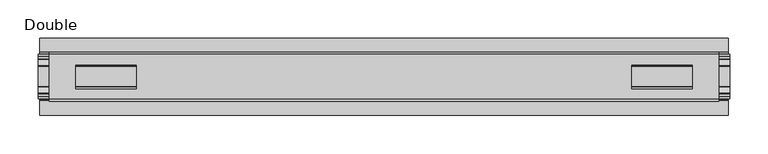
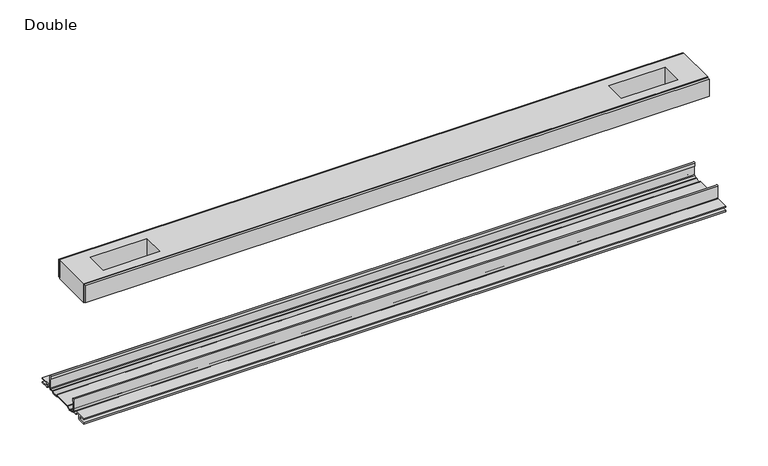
"""IFC4 building model written with IfcOpenShell, lengths in millimetres: proxy geometry, Frame-Teknion-FHCRA-Horizontal_Rail-R2022 : Double."""

from ifc_helpers import new_model, si_unit, point, frame, frame_2d, origin, place, context, project, spatial, polyline, circle_curve, trimmed, segment, composite_curve, outline, extrude, source, transform, mapped, element, save


def double_fa46a99c(model_context):
    return source(origin(), model_context, "Body", "SweptSolid", [
        extrude(outline(polyline([(436.4490205, -29.0068005), (436.4490205, -32.1817997), (-436.4490205, -32.1817997), (-436.4490205, -29.0068005), (436.4490205, -29.0068005)])), frame((0.0, 0.0, 149.8401622), z_axis=(0.0, 0.0, 1.0), x_axis=(1.0, 0.0, 0.0)), (0.0, 0.0, 1.0), 25.3999939),
        extrude(outline(polyline([(436.4490205, 32.1817997), (436.4490205, 29.0068005), (-436.4490205, 29.0068005), (-436.4490205, 32.1817997), (436.4490205, 32.1817997)])), frame((0.0, 0.0, 149.8401622), z_axis=(0.0, 0.0, 1.0), x_axis=(1.0, 0.0, 0.0)), (0.0, 0.0, 1.0), 25.3999939),
        extrude(outline(polyline([(436.4490205, 29.0068005), (436.4490205, -29.0068005), (-436.4490205, -29.0068005), (-436.4490205, 29.0068005), (436.4490205, 29.0068005)]), holes=[polyline([(402.032008, 15.1130038), (322.9871961, 15.1130038), (322.9871961, -15.875003), (402.032008, -15.875003), (402.032008, 15.1130038)]), polyline([(-402.032008, 15.1130038), (-402.032008, -15.875003), (-322.9871961, -15.875003), (-322.9871961, 15.1130038), (-402.032008, 15.1130038)])]), frame((0.0, 0.0, 148.4185847), z_axis=(0.0, 0.0, 1.0), x_axis=(1.0, 0.0, 0.0)), (0.0, 0.0, 1.0), 27.9999988),
        extrude(outline(composite_curve([segment(polyline([(-28.8162961, -7.7516037), (-28.8162961, 9.8607558)]), True, "CONTINUOUS"), segment(trimmed(circle_curve(frame_2d((-27.5970982, 9.8607558)), 1.2191979), [point((-28.8162961, 9.8607558))], [point((-26.3779003, 9.8607558))], False, "CARTESIAN"), True, "CONTINUOUS"), segment(polyline([(-26.3779003, 9.8607558), (-26.3779003, 5.9999563), (-27.6580769, 5.9999563), (-27.6580769, -7.7516037)]), True, "CONTINUOUS"), segment(trimmed(circle_curve(frame_2d((-26.6420561, -7.7516037)), 1.0160208), [point((-27.6580769, -7.7516037))], [point((-26.6485732, -8.7676036))], True, "CARTESIAN"), True, "CONTINUOUS"), segment(polyline([(-26.6485732, -8.7676036), (-22.7056226, -8.7676036), (-21.7922609, -8.968753)]), True, "CONTINUOUS"), segment(trimmed(circle_curve(frame_2d((-17.7673021, -6.1259382)), 4.9276657), [point((-21.7922609, -8.968753))], [point((-13.7423434, -8.968753))], True, "CARTESIAN"), True, "CONTINUOUS"), segment(polyline([(-13.7423434, -8.968753), (-12.8289726, -8.7676036), (13.2099722, -8.7676036), (14.123343, -8.968753)]), True, "CONTINUOUS"), segment(trimmed(circle_curve(frame_2d((18.1483018, -6.1259382)), 4.9276657), [point((14.123343, -8.968753))], [point((22.1732605, -8.968753))], True, "CARTESIAN"), True, "CONTINUOUS"), segment(polyline([(22.1732605, -8.968753), (23.0866222, -8.7676036), (27.0295728, -8.7676036)]), True, "CONTINUOUS"), segment(trimmed(circle_curve(frame_2d((27.0230557, -7.7516037)), 1.0160208), [point((27.0295728, -8.7676036))], [point((28.0390765, -7.7516037))], True, "CARTESIAN"), True, "CONTINUOUS"), segment(polyline([(28.0390765, -7.7516037), (28.0390765, 5.9999563), (26.7588999, 5.9999563), (26.7588999, 9.8607558)]), True, "CONTINUOUS"), segment(trimmed(circle_curve(frame_2d((27.9780978, 9.8607558)), 1.2191979), [point((26.7588999, 9.8607558))], [point((29.1972958, 9.8607558))], False, "CARTESIAN"), True, "CONTINUOUS"), segment(polyline([(29.1972958, 9.8607558), (29.1972958, -7.7516037)]), True, "CONTINUOUS"), segment(trimmed(circle_curve(frame_2d((27.0230557, -7.7516037)), 2.17424), [point((29.1972958, -7.7516037))], [point((27.0230557, -9.9258438))], False, "CARTESIAN"), True, "CONTINUOUS"), segment(polyline([(27.0230557, -9.9258438), (22.732069, -9.9258438)]), True, "CONTINUOUS"), segment(trimmed(circle_curve(frame_2d((18.1516545, -6.4800016)), 5.7318431), [point((22.732069, -9.9258438))], [point((13.57124, -9.9258438))], False, "CARTESIAN"), True, "CONTINUOUS"), segment(polyline([(13.57124, -9.9258438), (-13.1902404, -9.9258438)]), True, "CONTINUOUS"), segment(trimmed(circle_curve(frame_2d((-17.7706549, -6.4800016)), 5.7318431), [point((-13.1902404, -9.9258438))], [point((-22.3510694, -9.9258438))], False, "CARTESIAN"), True, "CONTINUOUS"), segment(polyline([(-22.3510694, -9.9258438), (-26.6420561, -9.9258438)]), True, "CONTINUOUS"), segment(trimmed(circle_curve(frame_2d((-26.6420561, -7.7516037)), 2.17424), [point((-26.6420561, -9.9258438))], [point((-28.8162961, -7.7516037))], False, "CARTESIAN"), True, "CONTINUOUS")], self_intersect=False)), frame((-450.5079114, 0.0, 0.0), z_axis=(1.0, 0.0, 0.0), x_axis=(0.0, 1.0, 0.0)), (0.0, 0.0, 1.0), 901.0158229),
        extrude(outline(composite_curve([segment(polyline([(-50.2668422, -13.9898438), (-50.2240211, -12.3388438), (-39.7827507, -12.3388438), (-39.7827507, -7.766844), (-50.2240211, -7.766844), (-50.2668422, -6.1158439), (-31.1784975, -6.1158439)]), True, "CONTINUOUS"), segment(trimmed(circle_curve(frame_2d((-31.1784975, -7.6398436)), 1.5239997), [point((-31.1784975, -6.1158439))], [point((-29.6544978, -7.6398436))], False, "CARTESIAN"), True, "CONTINUOUS"), segment(polyline([(-29.6544978, -7.6398436), (-29.6544978, -9.9258438), (-23.1058344, -9.9258438)]), True, "CONTINUOUS"), segment(trimmed(circle_curve(frame_2d((-17.7673021, -5.2268471)), 7.1119966), [point((-23.1058344, -9.9258438))], [point((-12.4287699, -9.9258438))], True, "CARTESIAN"), True, "CONTINUOUS"), segment(polyline([(-12.4287699, -9.9258438), (12.8097695, -9.9258438)]), True, "CONTINUOUS"), segment(trimmed(circle_curve(frame_2d((18.1483018, -5.2268471)), 7.1119966), [point((12.8097695, -9.9258438))], [point((23.486834, -9.9258438))], True, "CARTESIAN"), True, "CONTINUOUS"), segment(polyline([(23.486834, -9.9258438), (30.0354975, -9.9258438), (30.0354975, -7.7656583)]), True, "CONTINUOUS"), segment(trimmed(circle_curve(frame_2d((31.6864982, -7.7656583)), 1.6510007), [point((30.0354975, -7.7656583))], [point((31.6239218, -6.1158439))], False, "CARTESIAN"), True, "CONTINUOUS"), segment(polyline([(31.6239218, -6.1158439), (50.00625, -6.1158439), (50.00625, -7.766844), (40.1637503, -7.766844), (40.1637503, -12.3388438), (50.00625, -12.3388438), (50.00625, -13.9898438), (40.0367518, -13.9898438)]), True, "CONTINUOUS"), segment(trimmed(circle_curve(frame_2d((40.0367518, -12.4658438)), 1.524), [point((40.0367518, -13.9898438))], [point((38.5127519, -12.4658438))], False, "CARTESIAN"), True, "CONTINUOUS"), segment(polyline([(38.5127519, -12.4658438), (38.5127519, -7.766844), (31.686497, -7.766844), (31.686497, -10.0528438)]), True, "CONTINUOUS"), segment(trimmed(circle_curve(frame_2d((30.1624971, -10.0528438)), 1.524), [point((31.686497, -10.0528438))], [point((30.1624971, -11.5768438))], False, "CARTESIAN"), True, "CONTINUOUS"), segment(polyline([(30.1624971, -11.5768438), (23.6563549, -11.5768438)]), True, "CONTINUOUS"), segment(trimmed(circle_curve(frame_2d((18.1483018, -6.4968436)), 7.4930002), [point((23.6563549, -11.5768438))], [point((12.8904968, -11.8354331))], False, "CARTESIAN"), True, "CONTINUOUS"), segment(polyline([(12.8904968, -11.8354331), (-12.5094972, -11.8354331)]), True, "CONTINUOUS"), segment(trimmed(circle_curve(frame_2d((-17.7673021, -6.4968436)), 7.4930002), [point((-12.5094972, -11.8354331))], [point((-23.2753553, -11.5768438))], False, "CARTESIAN"), True, "CONTINUOUS"), segment(polyline([(-23.2753553, -11.5768438), (-29.7814974, -11.5768438)]), True, "CONTINUOUS"), segment(trimmed(circle_curve(frame_2d((-29.7814974, -10.0528438)), 1.524), [point((-29.7814974, -11.5768438))], [point((-31.3054974, -10.0528438))], False, "CARTESIAN"), True, "CONTINUOUS"), segment(polyline([(-31.3054974, -10.0528438), (-31.3054974, -7.766844), (-38.1317522, -7.766844), (-38.1317522, -12.4658438)]), True, "CONTINUOUS"), segment(trimmed(circle_curve(frame_2d((-39.6557522, -12.4658438)), 1.524), [point((-38.1317522, -12.4658438))], [point((-39.6557522, -13.9898438))], False, "CARTESIAN"), True, "CONTINUOUS"), segment(polyline([(-39.6557522, -13.9898438), (-50.2668422, -13.9898438)]), True, "CONTINUOUS")], self_intersect=False)), frame((-448.8569114, 0.0, 0.0), z_axis=(1.0, 0.0, 0.0), x_axis=(0.0, 1.0, 0.0)), (0.0, 0.0, 1.0), 897.7138229),
    ])


if __name__ == "__main__":
    model = new_model("IFC4")
    model_context = context("Model", 3, world=origin())
    ifc_project = project(units=[si_unit("LENGTHUNIT", "METRE", prefix="MILLI")], contexts=[model_context])
    site = spatial("IfcSite", under=ifc_project)
    building = spatial("IfcBuilding", under=site)
    placement = place(None, origin())
    double_shape = double_fa46a99c(model_context)
    element("IfcBuildingElementProxy", 1, Name="Frame-Teknion-FHCRA-Horizontal_Rail-R2022 : Double", ObjectType="Frame-Teknion-FHCRA-Horizontal_Rail-R2022 : Double", at=placement, inside=building, context=model_context, shape_type="MappedRepresentation", body=[
        mapped(double_shape, transform((0.0, 0.0, 0.0), x_axis=(1.0, 0.0, 0.0), y_axis=(0.0, 1.0, 0.0), z_axis=(0.0, 0.0, 1.0))),
    ])
    save(model, "model.ifc")
